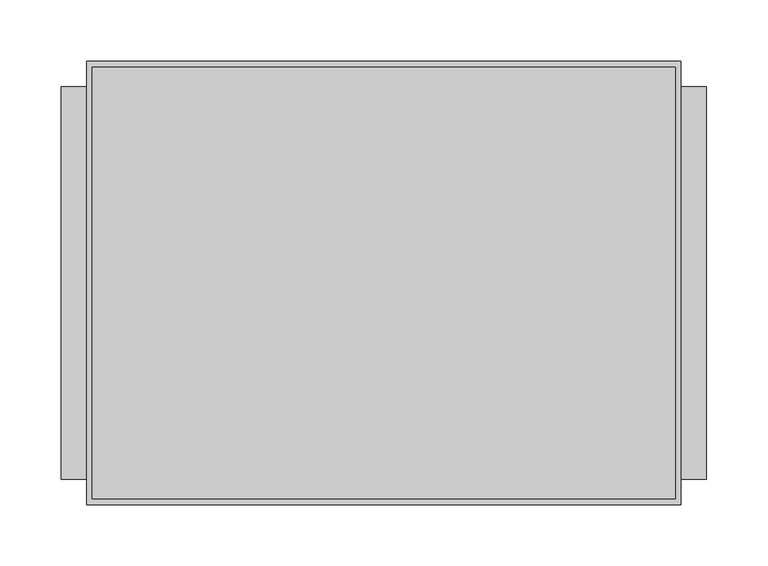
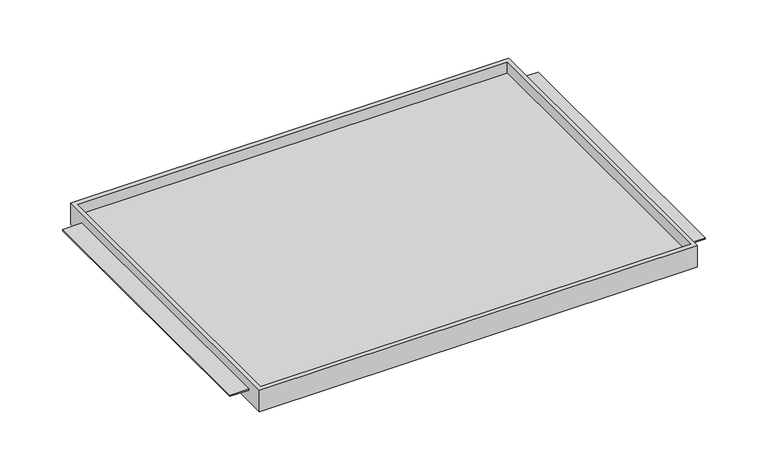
"""IFC4 building model written with IfcOpenShell, lengths in millimetres: furniture geometry."""

from ifc_helpers import new_model, si_unit, origin, place, context, project, spatial, faceted_brep, source, transform, mapped, element, save


def furniture_e1d5eda1(model_context):
    return source(origin(), model_context, "Body", "Brep", [
        faceted_brep([(-242.7689646, -180.975, 1450.18252), (242.7689646, -180.975, 1450.18252), (242.7689646, -180.975, 1475.58252), (-242.7689646, -180.975, 1475.58252), (-242.7689646, 180.975, 1450.18252), (-242.7689646, 180.975, 1475.58252), (242.7689646, 180.975, 1475.58252), (242.7689646, 180.975, 1450.18252), (242.7689646, -160.3374879, 1464.48272), (242.7689646, 160.3374879, 1464.48272), (242.7689646, 160.3374879, 1462.88252), (242.7689646, -160.3374879, 1462.88252), (238.125, -176.2125, 1475.58252), (-238.125, -176.2125, 1475.58252), (-238.125, 175.91278, 1475.58252), (238.125, 175.91278, 1475.58252), (-242.7689646, 160.3374879, 1464.48272), (-242.7689646, -160.3374879, 1464.48272), (-242.7689646, -160.3374879, 1462.88252), (-242.7689646, 160.3374879, 1462.88252), (-238.125, -176.2125, 1462.88252), (238.125, -176.2125, 1462.88252), (238.125, 175.91278, 1462.88252), (-238.125, 175.91278, 1462.88252), (-263.525, 160.3374879, 1464.48272), (-263.525, -160.3374879, 1464.48272), (263.525, -160.3374879, 1464.48272), (263.525, 160.3374879, 1464.48272), (-263.525, -160.3374879, 1462.88252), (-263.525, 160.3374879, 1462.88252), (263.525, -160.3374879, 1462.88252), (263.525, 160.3374879, 1462.88252)], [[[0, 1, 2, 3]], [[4, 5, 6, 7]], [[1, 0, 4, 7]], [[2, 1, 7, 6], [8, 9, 10, 11]], [[3, 2, 6, 5], [12, 13, 14, 15]], [[0, 3, 5, 4], [16, 17, 18, 19]], [[20, 21, 22, 23]], [[21, 20, 13, 12]], [[22, 21, 12, 15]], [[23, 22, 15, 14]], [[20, 23, 14, 13]], [[16, 24, 25, 17]], [[26, 27, 9, 8]], [[18, 28, 29, 19]], [[30, 11, 10, 31]], [[24, 16, 19, 29]], [[25, 24, 29, 28]], [[17, 25, 28, 18]], [[27, 26, 30, 31]], [[9, 27, 31, 10]], [[26, 8, 11, 30]]]),
    ])


if __name__ == "__main__":
    model = new_model("IFC4")
    model_context = context("Model", 3, world=origin())
    ifc_project = project(units=[si_unit("LENGTHUNIT", "METRE", prefix="MILLI")], contexts=[model_context])
    site = spatial("IfcSite", under=ifc_project)
    building = spatial("IfcBuilding", under=site)
    placement = place(None, origin())
    furniture_shape = furniture_e1d5eda1(model_context)
    element("IfcFurniture", 1, ObjectType="HermanMiller_CoStruc_CO203_CTrayShelf : 14\"D x 20\"W", at=placement, inside=building, context=model_context, shape_type="MappedRepresentation", body=[
        mapped(furniture_shape, transform((0.0, 0.0, 0.0), x_axis=(1.0, 0.0, 0.0), y_axis=(0.0, 1.0, 0.0), z_axis=(0.0, 0.0, 1.0))),
    ])
    save(model, "model.ifc")
